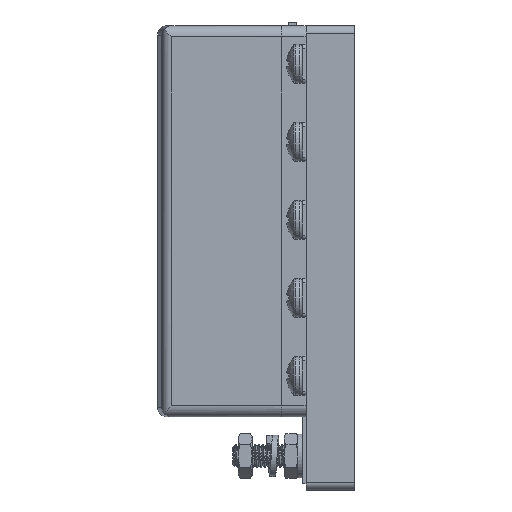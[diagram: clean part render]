
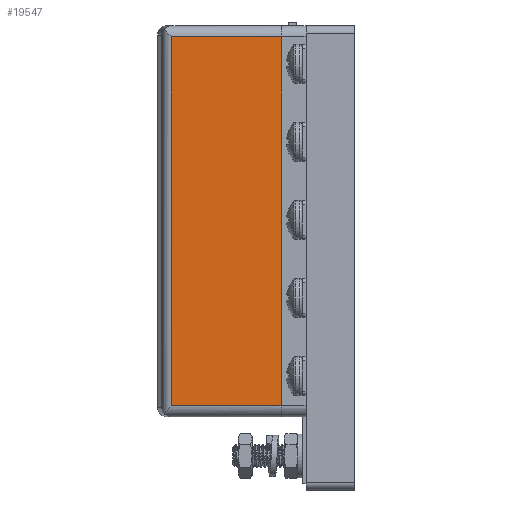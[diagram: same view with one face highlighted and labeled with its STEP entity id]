
A CAD part, left-side view. The second image highlights one B-rep face of the part: STEP entity #19547.
In plain terms, the highlighted planar face has unit normal (-1, 0, 0).
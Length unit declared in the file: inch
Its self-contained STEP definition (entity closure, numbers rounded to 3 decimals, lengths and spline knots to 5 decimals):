
#3011=LINE('',#39132,#4839);
#3033=LINE('',#39225,#4861);
#3034=LINE('',#39228,#4862);
#3035=LINE('',#39231,#4863);
#4839=VECTOR('',#25268,0.3937);
#4861=VECTOR('',#25344,0.3937);
#4862=VECTOR('',#25347,0.3937);
#4863=VECTOR('',#25352,0.3937);
#6034=FACE_OUTER_BOUND('',#7205,.T.);
#7205=EDGE_LOOP('',(#17732,#17733,#17734,#17735));
#9435=VERTEX_POINT('',#39124);
#9436=VERTEX_POINT('',#39131);
#9458=VERTEX_POINT('',#39223);
#9459=VERTEX_POINT('',#39227);
#12188=EDGE_CURVE('',#9435,#9436,#3011,.T.);
#12225=EDGE_CURVE('',#9458,#9435,#3033,.T.);
#12226=EDGE_CURVE('',#9459,#9436,#3034,.T.);
#12228=EDGE_CURVE('',#9459,#9458,#3035,.T.);
#17732=ORIENTED_EDGE('',*,*,#12188,.F.);
#17733=ORIENTED_EDGE('',*,*,#12225,.F.);
#17734=ORIENTED_EDGE('',*,*,#12228,.F.);
#17735=ORIENTED_EDGE('',*,*,#12226,.T.);
#18523=PLANE('',#21009);
#19547=ADVANCED_FACE('',(#6034),#18523,.T.);
#21009=AXIS2_PLACEMENT_3D('',#39230,#25350,#25351);
#25268=DIRECTION('',(0.,-1.,0.));
#25344=DIRECTION('',(0.,0.,1.));
#25347=DIRECTION('',(0.,0.,1.));
#25350=DIRECTION('center_axis',(-1.,0.,0.));
#25351=DIRECTION('ref_axis',(0.,-1.,0.));
#25352=DIRECTION('',(0.,1.,0.));
#39124=CARTESIAN_POINT('',(-1.26,1.485,0.46982));
#39131=CARTESIAN_POINT('',(-1.26,-1.485,0.46982));
#39132=CARTESIAN_POINT('',(-1.26,1.575,0.46982));
#39223=CARTESIAN_POINT('',(-1.26,1.485,-0.422));
#39225=CARTESIAN_POINT('',(-1.26,1.485,-0.422));
#39227=CARTESIAN_POINT('',(-1.26,-1.485,-0.422));
#39228=CARTESIAN_POINT('',(-1.26,-1.485,-0.422));
#39230=CARTESIAN_POINT('Origin',(-1.26,1.485,-0.422));
#39231=CARTESIAN_POINT('',(-1.26,-1.485,-0.422));
